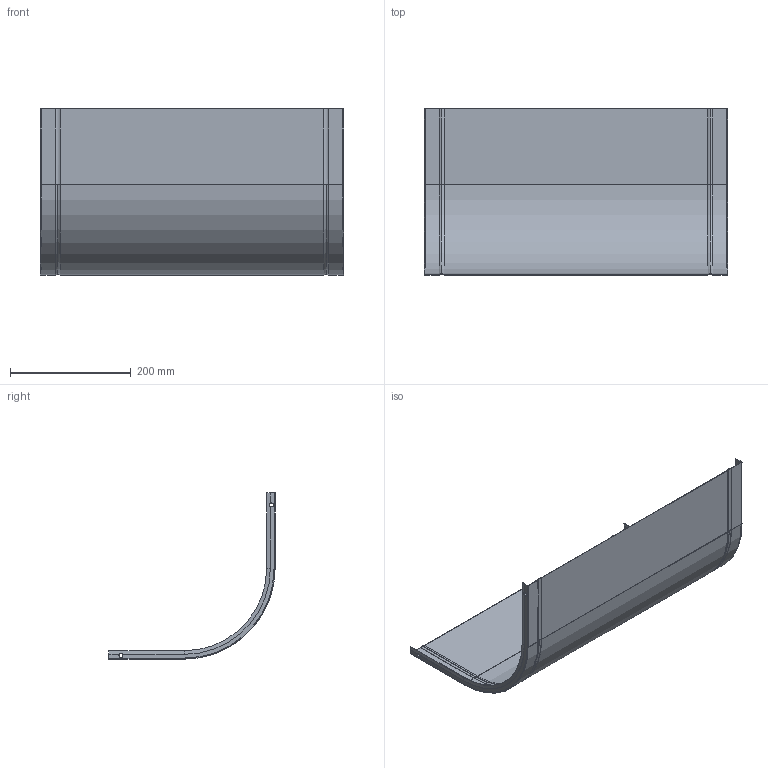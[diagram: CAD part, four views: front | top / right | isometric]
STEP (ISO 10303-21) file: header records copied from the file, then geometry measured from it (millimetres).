
FILE_DESCRIPTION (( 'STEP AP203' ), '1' );
FILE_NAME ('ERE_TAPA CXERC 500x100.step', '2023-07-28T14:53:11', ( '' ), ( '' ), 'SwSTEP 2.0', 'SolidWorks 2022', '' );
FILE_SCHEMA (( 'CONFIG_CONTROL_DESIGN' ));
Length unit declared in the file: millimetre
Products named in the file (1): ERE_TAPA CXERC 500x100
Bounding box: 502 x 275 x 275 mm (x, y, z)
Volume: 205015.1 mm3; surface area: 513516.3 mm2
Topology: 1 solids, 1 shells, 82 faces, 228 edges, 140 vertices
Faces by surface type: cylinder 36, plane 30, torus 12, cone 4
Entity records: 2709 total; most frequent: CARTESIAN_POINT 487, DIRECTION 474, ORIENTED_EDGE 456, EDGE_CURVE 228, AXIS2_PLACEMENT_3D 175, VERTEX_POINT 140, LINE 124, VECTOR 124
